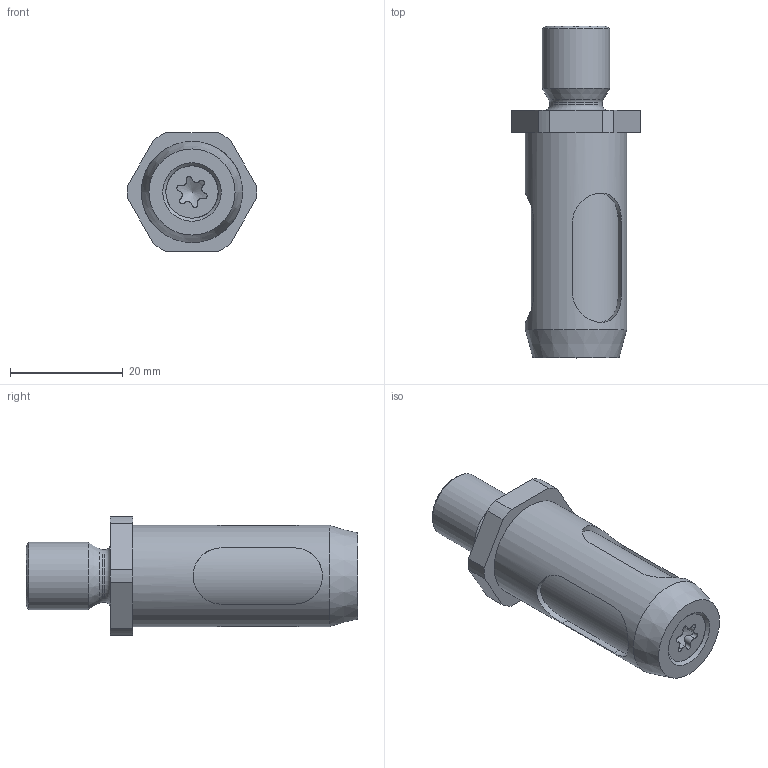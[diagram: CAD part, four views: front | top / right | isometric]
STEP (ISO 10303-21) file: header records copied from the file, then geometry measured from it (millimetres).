
FILE_DESCRIPTION(/* description */ (''),/* implementation_level */ '2;1');
FILE_NAME(/* name */ '\\dc01\daten\CAD\Standard\Daten\3D-Datenbank\GI\GIS\4 - 3D-CAD-Daten GIS 004-020\G-GIS018\G-GIS018_Rev.1.02.stp',/* time_stamp */ '2022-11-29T16:01:19+01:00',/* author */ ('ysplieth'),/* organization */ (''),/* preprocessor_version */ 'ST-DEVELOPER v17',/* originating_system */ 'Autodesk Inventor 2018',/* authorisation */ '');
FILE_SCHEMA (('AUTOMOTIVE_DESIGN { 1 0 10303 214 3 1 1 }'));
Length unit declared in the file: millimetre
Products named in the file (1): Bauteil13
Bounding box: 22.99 x 59 x 21 mm (x, y, z)
Volume: 11380.2 mm3; surface area: 7844.2 mm2
Topology: 1 solids, 4 shells, 78 faces, 216 edges, 149 vertices
Faces by surface type: cylinder 41, plane 23, cone 11, torus 3
Full cylindrical faces by diameter (mm): 4 x2, 4.134 x2, 5 x1, 5.5 x1, 9.3 x1, 9.4 x1, 12 x1, 13.8 x1, 14 x1, 16 x2, 18 x1
Entity records: 3186 total; most frequent: CARTESIAN_POINT 1038, ORIENTED_EDGE 426, DIRECTION 422, EDGE_CURVE 213, AXIS2_PLACEMENT_3D 167, VERTEX_POINT 149, EDGE_LOOP 92, LINE 88
